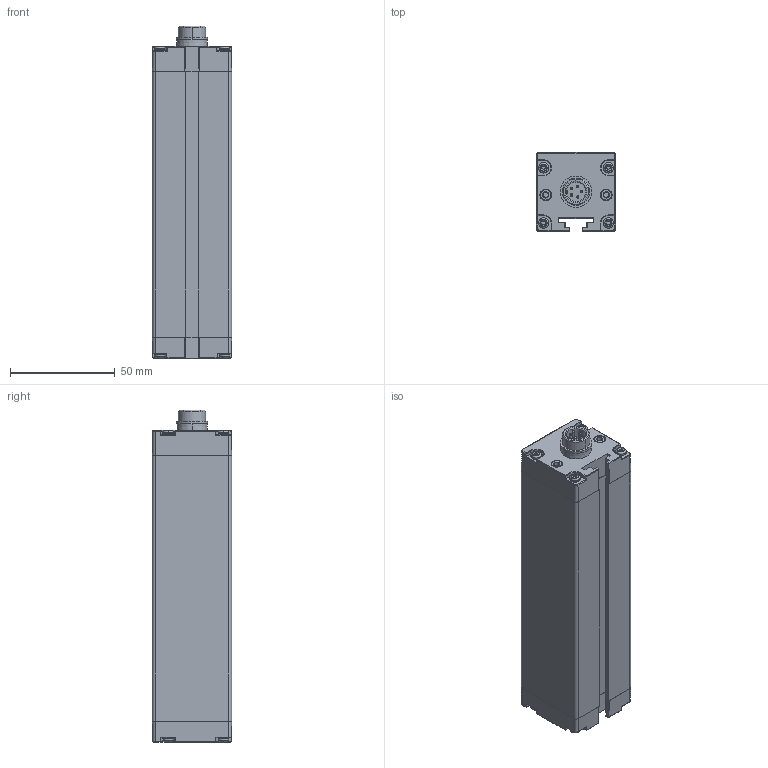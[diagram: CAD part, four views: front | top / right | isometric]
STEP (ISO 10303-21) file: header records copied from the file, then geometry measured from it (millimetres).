
FILE_DESCRIPTION((''),'2;1');
FILE_NAME('HR-0425_ASM','2022-09-08T',('Administrator'),(''),'PRO/ENGINEER BY PARAMETRIC TECHNOLOGY CORPORATION, 2010280','PRO/ENGINEER BY PARAMETRIC TECHNOLOGY CORPORATION, 2010280','');
FILE_SCHEMA(('AUTOMOTIVE_DESIGN_CC2 { 1 2 10303 214 -1 1 5 2 }'));
Length unit declared in the file: millimetre
Products named in the file (15): HR-0425_PCB_01; HR-0425_LENS_BASE; HR-0425-23_LENS; HR-0425-LCD_PCB; HR-0425_PCBA_ASM; HR-0425_CASE_01; HR-0425_WINDOWS; HR-0425_CASE_02; HR-0425_LUOZHU_1; HR-0425-M13-5PIN; HR-0425-M3-10; HR-0425_CASE02_ASM; HR-0425_CASE_03; HR-0425_CASE03_ASM; HR-0425_ASM
Assembly tree (30 placements, depth 3):
  HR-0425_ASM
    HR-0425_PCBA_ASM
      HR-0425_PCB_01
      HR-0425_LENS_BASE  x4
      HR-0425-23_LENS  x4
      HR-0425-LCD_PCB
    HR-0425_CASE_01
    HR-0425_WINDOWS
    HR-0425_CASE02_ASM
      HR-0425_CASE_02
      HR-0425_LUOZHU_1  x2
      HR-0425-M13-5PIN
      HR-0425-M3-10  x4
    HR-0425_CASE03_ASM
      HR-0425_CASE_03
      HR-0425_LUOZHU_1  x2
      HR-0425-M3-10  x4
Bounding box: 37.9 x 37.92 x 158.8 mm (x, y, z)
Volume: 98336.3 mm3; surface area: 93997.1 mm2
Topology: 28 solids, 32 shells, 1679 faces, 4611 edges, 3024 vertices
Faces by surface type: cylinder 816, plane 683, bspline 74, torus 54, cone 44, revolution 8
Entity records: 39471 total; most frequent: CARTESIAN_POINT 8354, DIRECTION 5433, ORIENTED_EDGE 5190, EDGE_CURVE 2597, AXIS2_PLACEMENT_3D 1964, PRESENTATION_STYLE_ASSIGNMENT 1788, STYLED_ITEM 1788, VERTEX_POINT 1707
